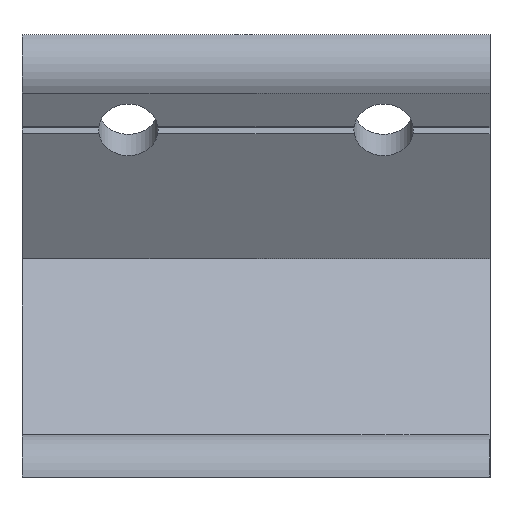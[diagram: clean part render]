
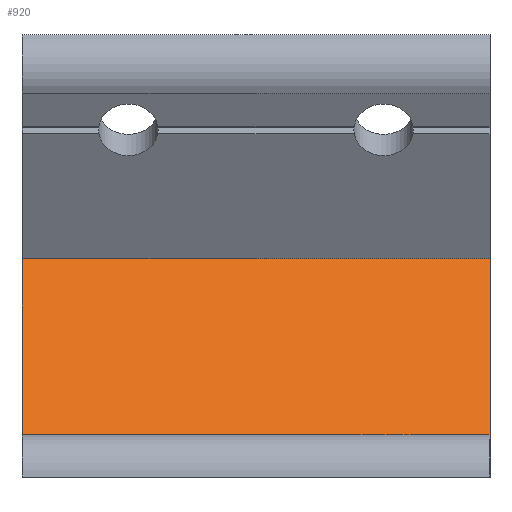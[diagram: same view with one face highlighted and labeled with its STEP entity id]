
A CAD part, left-side view. The second image highlights one B-rep face of the part: STEP entity #920.
In plain terms, the highlighted planar face has unit normal (-0.866, 0, 0.5).
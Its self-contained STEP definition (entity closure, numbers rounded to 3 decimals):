
#97=LINE('',#1497,#183);
#114=LINE('',#1533,#200);
#121=LINE('',#1549,#207);
#123=LINE('',#1555,#209);
#183=VECTOR('',#1196,1000.);
#200=VECTOR('',#1225,1000.);
#207=VECTOR('',#1240,1000.);
#209=VECTOR('',#1248,1000.);
#390=ORIENTED_EDGE('',*,*,#574,.T.);
#391=ORIENTED_EDGE('',*,*,#605,.F.);
#392=ORIENTED_EDGE('',*,*,#595,.F.);
#393=ORIENTED_EDGE('',*,*,#609,.T.);
#574=EDGE_CURVE('',#702,#701,#97,.T.);
#595=EDGE_CURVE('',#714,#715,#114,.T.);
#605=EDGE_CURVE('',#715,#701,#121,.T.);
#609=EDGE_CURVE('',#714,#702,#123,.T.);
#701=VERTEX_POINT('',#1496);
#702=VERTEX_POINT('',#1498);
#714=VERTEX_POINT('',#1532);
#715=VERTEX_POINT('',#1534);
#784=EDGE_LOOP('',(#390,#391,#392,#393));
#834=FACE_BOUND('',#784,.T.);
#882=PLANE('',#1021);
#920=ADVANCED_FACE('',(#834),#882,.F.);
#1021=AXIS2_PLACEMENT_3D('',#1573,#1272,#1273);
#1196=DIRECTION('',(-0.5,0.,-0.866));
#1225=DIRECTION('',(-0.5,0.,-0.866));
#1240=DIRECTION('',(0.,1.,0.));
#1248=DIRECTION('',(0.,1.,0.));
#1272=DIRECTION('',(0.866,0.,-0.5));
#1273=DIRECTION('',(-0.5,0.,-0.866));
#1496=CARTESIAN_POINT('',(-32.506,27.5,5.));
#1497=CARTESIAN_POINT('',(-20.583,27.5,25.651));
#1498=CARTESIAN_POINT('',(-20.583,27.5,25.651));
#1532=CARTESIAN_POINT('',(-20.583,-27.5,25.651));
#1533=CARTESIAN_POINT('',(-20.583,-27.5,25.651));
#1534=CARTESIAN_POINT('',(-32.506,-27.5,5.));
#1549=CARTESIAN_POINT('',(-32.506,-27.5,5.));
#1555=CARTESIAN_POINT('',(-20.583,-27.5,25.651));
#1573=CARTESIAN_POINT('',(-20.583,-27.5,25.651));
